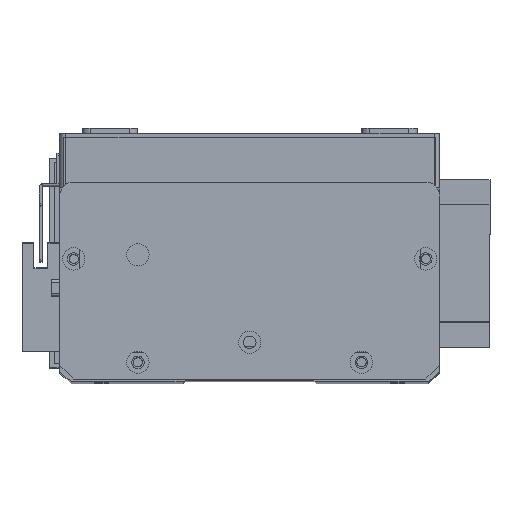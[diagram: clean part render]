
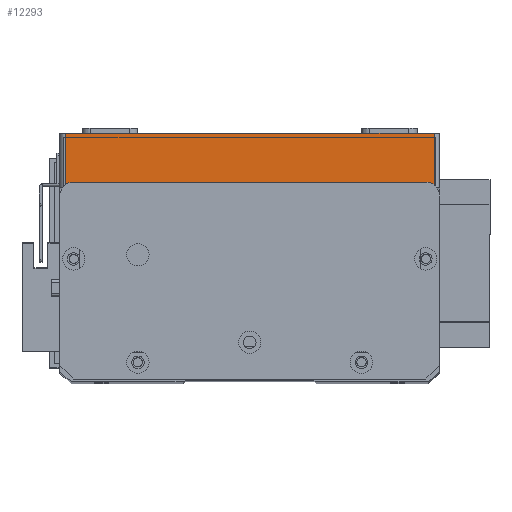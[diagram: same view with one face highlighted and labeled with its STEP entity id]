
A CAD part, top view. The second image highlights one B-rep face of the part: STEP entity #12293.
In plain terms, the highlighted planar face has unit normal (0, 0, 1) as drawn and (0, -1, 0) by its records, which use the part's own axes.
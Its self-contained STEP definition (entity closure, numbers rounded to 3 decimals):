
#860 = CARTESIAN_POINT ( 'NONE',  ( 2., 0., 19.5 ) ) ;
#3646 = VECTOR ( 'NONE', #20902, 1000. ) ;
#5213 = VERTEX_POINT ( 'NONE', #860 ) ;
#5940 = LINE ( 'NONE', #8215, #21366 ) ;
#6545 = ORIENTED_EDGE ( 'NONE', *, *, #8630, .T. ) ;
#8215 = CARTESIAN_POINT ( 'NONE',  ( 0., 0., 19.5 ) ) ;
#8630 = EDGE_CURVE ( 'NONE', #5213, #9536, #21122, .T. ) ;
#9510 = LINE ( 'NONE', #12047, #26298 ) ;
#9536 = VERTEX_POINT ( 'NONE', #11097 ) ;
#10087 = VERTEX_POINT ( 'NONE', #19493 ) ;
#10310 = PLANE ( 'NONE',  #10539 ) ;
#10468 = EDGE_CURVE ( 'NONE', #20343, #10087, #9510, .T. ) ;
#10539 = AXIS2_PLACEMENT_3D ( 'NONE', #25624, #27819, #14656 ) ;
#11055 = VECTOR ( 'NONE', #24749, 1000. ) ;
#11097 = CARTESIAN_POINT ( 'NONE',  ( 2., 0., 0. ) ) ;
#11627 = CARTESIAN_POINT ( 'NONE',  ( 0., 0., 0. ) ) ;
#11825 = FACE_OUTER_BOUND ( 'NONE', #21708, .T. ) ;
#12047 = CARTESIAN_POINT ( 'NONE',  ( 134., 0., 19.5 ) ) ;
#12293 = ADVANCED_FACE ( 'NONE', ( #11825 ), #10310, .F. ) ;
#13297 = EDGE_CURVE ( 'NONE', #5213, #10087, #5940, .T. ) ;
#13668 = EDGE_CURVE ( 'NONE', #9536, #20343, #22684, .T. ) ;
#14220 = DIRECTION ( 'NONE',  ( 0., 0., 1. ) ) ;
#14656 = DIRECTION ( 'NONE',  ( 0., 0., 1. ) ) ;
#14907 = ORIENTED_EDGE ( 'NONE', *, *, #13297, .F. ) ;
#18131 = ORIENTED_EDGE ( 'NONE', *, *, #10468, .T. ) ;
#18668 = CARTESIAN_POINT ( 'NONE',  ( 2., 0., 19.5 ) ) ;
#19493 = CARTESIAN_POINT ( 'NONE',  ( 134., 0., 19.5 ) ) ;
#20343 = VERTEX_POINT ( 'NONE', #20801 ) ;
#20801 = CARTESIAN_POINT ( 'NONE',  ( 134., 0., 0. ) ) ;
#20902 = DIRECTION ( 'NONE',  ( 0., 0., -1. ) ) ;
#21122 = LINE ( 'NONE', #18668, #3646 ) ;
#21366 = VECTOR ( 'NONE', #23524, 1000. ) ;
#21708 = EDGE_LOOP ( 'NONE', ( #14907, #6545, #27078, #18131 ) ) ;
#22684 = LINE ( 'NONE', #11627, #11055 ) ;
#23524 = DIRECTION ( 'NONE',  ( 1., 0., 0. ) ) ;
#24749 = DIRECTION ( 'NONE',  ( 1., 0., 0. ) ) ;
#25624 = CARTESIAN_POINT ( 'NONE',  ( 0., 0., 19.5 ) ) ;
#26298 = VECTOR ( 'NONE', #14220, 1000. ) ;
#27078 = ORIENTED_EDGE ( 'NONE', *, *, #13668, .T. ) ;
#27819 = DIRECTION ( 'NONE',  ( 0., 1., 0. ) ) ;
